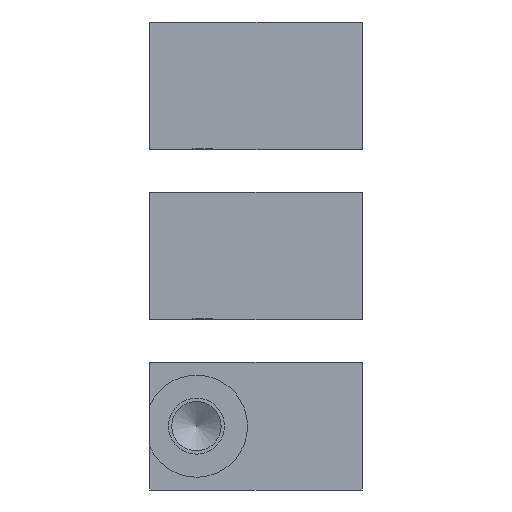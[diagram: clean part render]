
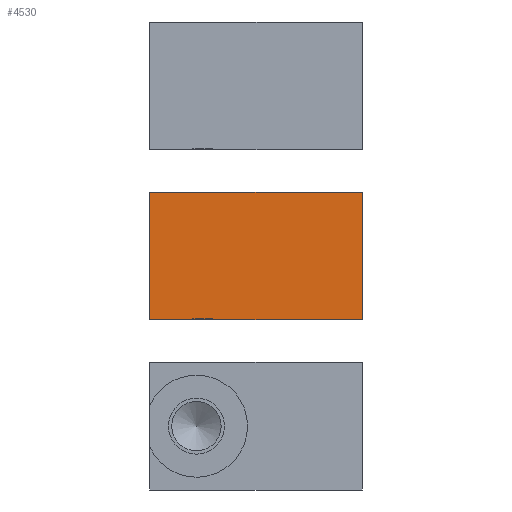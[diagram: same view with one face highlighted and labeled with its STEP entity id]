
A CAD part, front view. The second image highlights one B-rep face of the part: STEP entity #4530.
In plain terms, the highlighted planar face has unit normal (0, -1, 0).
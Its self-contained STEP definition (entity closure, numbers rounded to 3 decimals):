
#4530=ADVANCED_FACE('', (#4540), #4550, .T.);
#15690=AXIS2_PLACEMENT_3D('Ax2Pl3d', #15700, #15710, #15720);
#21380=CARTESIAN_POINT('', (50.,60.,40.));
#21390=CARTESIAN_POINT('', (0.,60.,
40.));
#21400=CARTESIAN_POINT('', (50.,60.,40.));
#21730=CARTESIAN_POINT('', (0.,60.,
70.));
#21740=CARTESIAN_POINT('', (50.,60.,70.));
#21750=CARTESIAN_POINT('', (50.,60.,70.));
#15700=CARTESIAN_POINT('HicPkt', (0.,60.,
40.));
#22100=CARTESIAN_POINT('', (50.,60.,70.));
#22110=CARTESIAN_POINT('', (0.,60.,
70.));
#32420=DIRECTION('', (1.,0.,0.));
#32470=DIRECTION('', (1.,0.,0.));
#15710=DIRECTION('Axis', (0.,-1.,
0.));
#15720=DIRECTION('RefDirection', (0.,
0.,-1.));
#32500=DIRECTION('', (0.,0.,1.));
#32510=DIRECTION('', (0.,0.,1.));
#34200=EDGE_CURVE('', #34210, #34220, #34230, .T.);
#34800=EDGE_CURVE('', #34780, #34810, #34820, .T.);
#35360=EDGE_CURVE('', #34220, #34810, #35370, .T.);
#35380=EDGE_CURVE('', #34210, #34780, #35390, .T.);
#41340=EDGE_LOOP('Edge_loop', (#41350,#41360,#41370,#41380));
#4540=FACE_OUTER_BOUND('Face_outer_bound', #41340, .T.);
#34230=LINE('Line', #21380, #48280);
#34820=LINE('Line', #21740, #48330);
#35370=LINE('Line', #22100, #48360);
#35390=LINE('Line', #22110, #48370);
#41350=ORIENTED_EDGE('', *, *, #34200, .T.);
#41360=ORIENTED_EDGE('', *, *, #35360, .T.);
#41370=ORIENTED_EDGE('', *, *, #34800, .F.);
#41380=ORIENTED_EDGE('', *, *, #35380, .F.);
#4550=PLANE('Plane', #15690);
#48280=VECTOR('', #32420, 50.);
#48330=VECTOR('', #32470, 50.);
#48360=VECTOR('', #32500, 30.);
#48370=VECTOR('', #32510, 30.);
#34210=VERTEX_POINT('', #21390);
#34220=VERTEX_POINT('', #21400);
#34780=VERTEX_POINT('', #21730);
#34810=VERTEX_POINT('', #21750);
